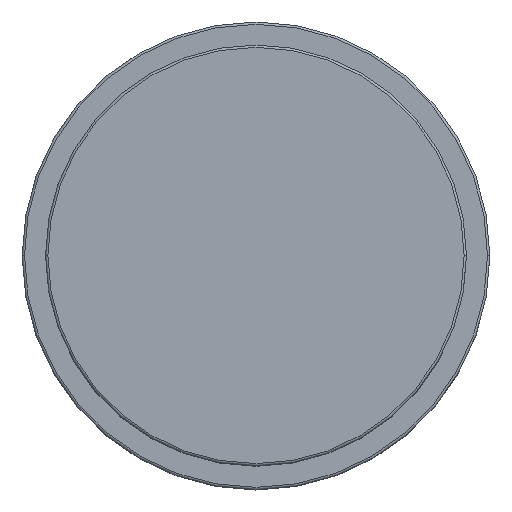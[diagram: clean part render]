
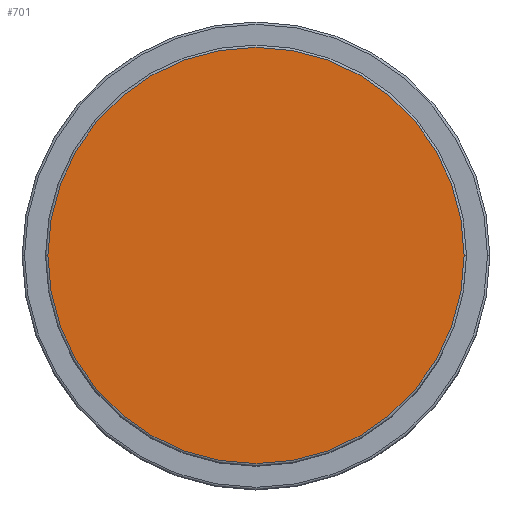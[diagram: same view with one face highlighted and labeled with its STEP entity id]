
A CAD part, top view. The second image highlights one B-rep face of the part: STEP entity #701.
In plain terms, the highlighted planar face has unit normal (0, 0, 1).
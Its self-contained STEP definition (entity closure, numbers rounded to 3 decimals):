
#81 = ORIENTED_EDGE ( 'NONE', *, *, #920, .T. ) ;
#146 = CARTESIAN_POINT ( 'NONE',  ( 0., 0., 62. ) ) ;
#166 = DIRECTION ( 'NONE',  ( 0., 0., 1. ) ) ;
#212 = AXIS2_PLACEMENT_3D ( 'NONE', #230, #458, #471 ) ;
#230 = CARTESIAN_POINT ( 'NONE',  ( 0., 0., 62. ) ) ;
#319 = EDGE_LOOP ( 'NONE', ( #81, #430 ) ) ;
#342 = CARTESIAN_POINT ( 'NONE',  ( 44.5, 0., 62. ) ) ;
#380 = VERTEX_POINT ( 'NONE', #342 ) ;
#430 = ORIENTED_EDGE ( 'NONE', *, *, #1515, .T. ) ;
#458 = DIRECTION ( 'NONE',  ( 0., 0., 1. ) ) ;
#471 = DIRECTION ( 'NONE',  ( 1., 0., 0. ) ) ;
#493 = FACE_OUTER_BOUND ( 'NONE', #319, .T. ) ;
#554 = DIRECTION ( 'NONE',  ( 1., 0., 0. ) ) ;
#633 = CARTESIAN_POINT ( 'NONE',  ( -44.5, 0., 62. ) ) ;
#701 = ADVANCED_FACE ( 'NONE', ( #493 ), #935, .T. ) ;
#920 = EDGE_CURVE ( 'NONE', #380, #1600, #1012, .T. ) ;
#935 = PLANE ( 'NONE',  #1178 ) ;
#1012 = CIRCLE ( 'NONE', #212, 44.5 ) ;
#1058 = CARTESIAN_POINT ( 'NONE',  ( 0., 0., 62. ) ) ;
#1178 = AXIS2_PLACEMENT_3D ( 'NONE', #1058, #166, #554 ) ;
#1388 = DIRECTION ( 'NONE',  ( 1., 0., 0. ) ) ;
#1466 = AXIS2_PLACEMENT_3D ( 'NONE', #146, #1524, #1388 ) ;
#1515 = EDGE_CURVE ( 'NONE', #1600, #380, #1548, .T. ) ;
#1524 = DIRECTION ( 'NONE',  ( 0., 0., 1. ) ) ;
#1548 = CIRCLE ( 'NONE', #1466, 44.5 ) ;
#1600 = VERTEX_POINT ( 'NONE', #633 ) ;
